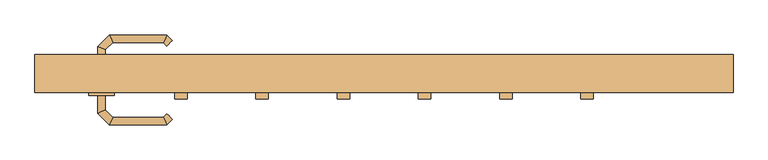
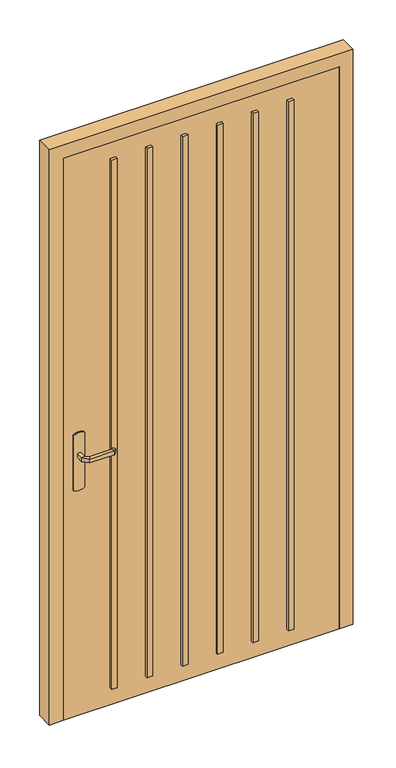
"""IFC4 building model written with IfcOpenShell, lengths in millimetres: door geometry, PVC Panneau Vitré - Traverse et barreaux : 1 m x 2.15m."""

import ifcopenshell
import ifcopenshell.guid

model = None  # the IFC model being written
_history = None  # IfcOwnerHistory: only IFC2X3 demands one
_inside = {}  # id of a spatial element -> (the spatial element, [elements in it])
_under = {}  # id of a project, library or spatial element -> (it, [spatial elements below it])
_declared = {}  # id of a project -> (the project, [libraries it declares])
_typed = {}  # id of a type object -> (the type object, [elements of that type])
_made_of = {}  # id of a material, layer set ... -> (it, [elements and type objects made of it])


def new_model(schema):
    """Start an empty IFC model of exactly this schema.

    Asked for "IFC4X3", IfcOpenShell would pick the latest addendum, in which some entities
    have other attributes; the version numbers below select the first issue.
    IFC2X3 requires an IfcOwnerHistory on every rooted entity: one is made here for all.
    """
    global model, _history
    if schema == "IFC4X3":
        model = ifcopenshell.file(schema_version=(4, 3, 0, 0))
    else:
        model = ifcopenshell.file(schema=schema)
    _inside.clear()
    _under.clear()
    _declared.clear()
    _typed.clear()
    _made_of.clear()
    _history = None
    if model.schema == "IFC2X3":
        org = make("IfcOrganization", Name="unknown")
        user = make(
            "IfcPersonAndOrganization",
            ThePerson=make("IfcPerson", FamilyName="unknown"),
            TheOrganization=org,
        )
        app = make(
            "IfcApplication",
            ApplicationDeveloper=org,
            Version="unknown",
            ApplicationFullName="unknown",
            ApplicationIdentifier="unknown",
        )
        _history = make(
            "IfcOwnerHistory",
            OwningUser=user,
            OwningApplication=app,
            ChangeAction="ADDED",
            CreationDate=0,
        )
    return model


def make(cls, **values):
    """One entity of the class cls with the attributes given. An attribute that is None is left unset."""
    return model.create_entity(
        cls, **{name: value for name, value in values.items() if value is not None}
    )


def rooted(cls, **values):
    """An entity with a GlobalId (a new one), such as an element, a storey or a relation."""
    return make(cls, GlobalId=ifcopenshell.guid.new(), OwnerHistory=_history, **values)


def si_unit(unit_type, name, prefix=None):
    """IfcSIUnit, for example si_unit("LENGTHUNIT", "METRE", prefix="MILLI")."""
    return make("IfcSIUnit", UnitType=unit_type, Prefix=prefix, Name=name)


def assignment(units):
    """IfcUnitAssignment: the units of a project."""
    return None if units is None else make("IfcUnitAssignment", Units=units)


def point(xyz):
    """IfcCartesianPoint."""
    return None if xyz is None else make("IfcCartesianPoint", Coordinates=xyz)


def direction(xyz):
    """IfcDirection."""
    return None if xyz is None else make("IfcDirection", DirectionRatios=xyz)


def frame(location, z_axis=None, x_axis=None):
    """IfcAxis2Placement3D, a coordinate frame: its origin and axes. An axis left out is left unset."""
    return make(
        "IfcAxis2Placement3D",
        Location=point(location),
        Axis=direction(z_axis),
        RefDirection=direction(x_axis),
    )


def frame_2d(location, x_axis=None):
    """IfcAxis2Placement2D, a coordinate frame in the plane: its origin and x axis."""
    return make(
        "IfcAxis2Placement2D", Location=point(location), RefDirection=direction(x_axis)
    )


def origin():
    """The frame at (0, 0, 0) with its axes left unset."""
    return frame((0.0, 0.0, 0.0))


def origin_with_axes():
    """The frame at (0, 0, 0) with the z axis (0, 0, 1) and the x axis (1, 0, 0) written out."""
    return frame((0.0, 0.0, 0.0), z_axis=(0.0, 0.0, 1.0), x_axis=(1.0, 0.0, 0.0))


def place(relative_to, where):
    """IfcLocalPlacement: puts the frame where relative to a parent placement (None: the world)."""
    return make(
        "IfcLocalPlacement", PlacementRelTo=relative_to, RelativePlacement=where
    )


def context(
    kind, dimensions, precision=None, world=None, true_north=None, identifier=None
):
    """IfcGeometricRepresentationContext, for example the 3D "Model" context."""
    return make(
        "IfcGeometricRepresentationContext",
        ContextIdentifier=identifier,
        ContextType=kind,
        CoordinateSpaceDimension=dimensions,
        Precision=precision,
        WorldCoordinateSystem=world,
        TrueNorth=true_north,
    )


def project(units=None, contexts=None):
    """IfcProject with its units and contexts."""
    return rooted(
        "IfcProject",
        Name="project",
        RepresentationContexts=contexts,
        UnitsInContext=assignment(units),
    )


def spatial(cls, under=None, at=None, **own):
    """A site, building, storey or space (cls), placed at a placement, below another one or the project."""
    s = rooted(cls, ObjectPlacement=at, **own)
    if under is not None:
        _under.setdefault(under.id(), (under, []))[1].append(s)
    return s


def polyline(points):
    """IfcPolyline through the points."""
    return make("IfcPolyline", Points=[point(p) for p in points])


def circle_curve(where, radius):
    """IfcCircle in the frame where."""
    return make("IfcCircle", Position=where, Radius=radius)


def ellipse_curve(where, semi_axis1, semi_axis2):
    """IfcEllipse in the frame where."""
    return make(
        "IfcEllipse", Position=where, SemiAxis1=semi_axis1, SemiAxis2=semi_axis2
    )


def trimmed(basis, trim1, trim2, sense, master):
    """IfcTrimmedCurve: the piece of a basis curve between two trims."""
    return make(
        "IfcTrimmedCurve",
        BasisCurve=basis,
        Trim1=trim1,
        Trim2=trim2,
        SenseAgreement=sense,
        MasterRepresentation=master,
    )


def segment(curve, same_sense, transition):
    """IfcCompositeCurveSegment."""
    return make(
        "IfcCompositeCurveSegment",
        Transition=transition,
        SameSense=same_sense,
        ParentCurve=curve,
    )


def composite_curve(segments, self_intersect=None):
    """IfcCompositeCurve: segments joined end to end."""
    return make("IfcCompositeCurve", Segments=segments, SelfIntersect=self_intersect)


def outline(outer, holes=None, kind="AREA"):
    """IfcArbitraryClosedProfileDef: a profile drawn as a closed curve; with holes, ...WithVoids."""
    if holes is None:
        return make("IfcArbitraryClosedProfileDef", ProfileType=kind, OuterCurve=outer)
    return make(
        "IfcArbitraryProfileDefWithVoids",
        ProfileType=kind,
        OuterCurve=outer,
        InnerCurves=holes,
    )


def extrude(swept, where, along, depth):
    """IfcExtrudedAreaSolid: the profile swept, set in the frame where, extruded along a direction by depth."""
    return make(
        "IfcExtrudedAreaSolid",
        SweptArea=swept,
        Position=where,
        ExtrudedDirection=direction(along),
        Depth=depth,
    )


def faces_of(points, faces, orient=None, outer=None):
    """IfcFace entities. A face is a list of loops; a loop is a list of indices into points, from 0.

    orient and outer hold one flag for each loop. By default every Orientation is true, the
    first loop of a face is its IfcFaceOuterBound and the others are IfcFaceBound.
    """
    made = []
    for i, loops in enumerate(faces):
        bounds = []
        for j, loop in enumerate(loops):
            is_outer = j == 0 if outer is None else outer[i][j]
            bounds.append(
                make(
                    "IfcFaceOuterBound" if is_outer else "IfcFaceBound",
                    Bound=make("IfcPolyLoop", Polygon=[points[k] for k in loop]),
                    Orientation=True if orient is None else orient[i][j],
                )
            )
        made.append(make("IfcFace", Bounds=bounds))
    return made


def faceted_brep(points, faces, orient=None, outer=None, voids=None):
    """IfcFacetedBrep: a solid bounded by flat faces; with voids (closed shells), ...WithVoids."""
    shared = [point(p) for p in points]
    hull = make("IfcClosedShell", CfsFaces=faces_of(shared, faces, orient, outer))
    if voids is None:
        return make("IfcFacetedBrep", Outer=hull)
    return make(
        "IfcFacetedBrepWithVoids",
        Outer=hull,
        Voids=[
            make(cls, CfsFaces=faces_of(shared, fs, o, b)) for cls, fs, o, b in voids
        ],
    )


def shape(context_of_items, identifier, shape_type, items):
    """IfcShapeRepresentation: the items that make up one representation, for example the "Body"."""
    return make(
        "IfcShapeRepresentation",
        ContextOfItems=context_of_items,
        RepresentationIdentifier=identifier,
        RepresentationType=shape_type,
        Items=items,
    )


def source(mapping_origin, context_of_items, identifier, shape_type, items):
    """IfcRepresentationMap: a shape defined once, which mapped items show again and again."""
    return make(
        "IfcRepresentationMap",
        MappingOrigin=mapping_origin,
        MappedRepresentation=shape(context_of_items, identifier, shape_type, items),
    )


def transform(
    local_origin,
    x_axis=None,
    y_axis=None,
    z_axis=None,
    scale=None,
    scale2=None,
    scale3=None,
    uniform=True,
):
    """IfcCartesianTransformationOperator3D, or its non-uniform kind. x_axis, y_axis, z_axis: its Axis1, 2, 3."""
    if uniform:
        return make(
            "IfcCartesianTransformationOperator3D",
            Axis1=direction(x_axis),
            Axis2=direction(y_axis),
            LocalOrigin=point(local_origin),
            Scale=scale,
            Axis3=direction(z_axis),
        )
    return make(
        "IfcCartesianTransformationOperator3DnonUniform",
        Axis1=direction(x_axis),
        Axis2=direction(y_axis),
        LocalOrigin=point(local_origin),
        Scale=scale,
        Axis3=direction(z_axis),
        Scale2=scale2,
        Scale3=scale3,
    )


def mapped(mapping_source, mapping_target):
    """IfcMappedItem: shows the shape of a source again, moved by a transform."""
    return make(
        "IfcMappedItem", MappingSource=mapping_source, MappingTarget=mapping_target
    )


def made_of(thing, what):
    """Note that an element or type object is made of a material, layer set ...; save() writes the relation."""
    if what is not None:
        _made_of.setdefault(what.id(), (what, []))[1].append(thing)
    return thing


def element(
    cls,
    number,
    at=None,
    inside=None,
    cuts=None,
    type_object=None,
    material=None,
    context=None,
    identifier="Body",
    shape_type=None,
    held_by="IfcProductDefinitionShape",
    body=None,
    shapes=None,
    **own,
):
    """One element of the class cls, such as IfcWall. Its Tag is "e" and its number.

    at: its placement. inside: the storey or other place that contains it. cuts: it is an
    opening in that element (IfcRelVoidsElement). A single representation is given by context,
    identifier, shape_type and body (its items); several are given by shapes. held_by: the class
    of the entity that holds the representations. save() writes the other relations.
    """
    e = rooted(cls, Tag="e%d" % number, ObjectPlacement=at, **own)
    if body is not None:
        shapes = [shape(context, identifier, shape_type, body)]
    if shapes is not None:
        e.Representation = make(held_by, Representations=shapes)
    if inside is not None:
        _inside.setdefault(inside.id(), (inside, []))[1].append(e)
    if cuts is not None:
        rooted(
            "IfcRelVoidsElement", RelatingBuildingElement=cuts, RelatedOpeningElement=e
        )
    if type_object is not None:
        _typed.setdefault(type_object.id(), (type_object, []))[1].append(e)
    return made_of(e, material)


def aggregate(whole, parts):
    """IfcRelAggregates: a whole, such as a stair, and the parts it consists of."""
    return rooted("IfcRelAggregates", RelatingObject=whole, RelatedObjects=parts)


def save(model, path):
    """Write the relations noted so far, then the file.

    IfcRelAggregates (storeys below a building ...), IfcRelContainedInSpatialStructure (elements
    in a storey), IfcRelDefinesByType, IfcRelAssociatesMaterial and IfcRelDeclares: one each for
    every whole, place, type object, material and project.
    """
    for whole, parts in _under.values():
        aggregate(whole, parts)
    for where, things in _inside.values():
        rooted(
            "IfcRelContainedInSpatialStructure",
            RelatedElements=things,
            RelatingStructure=where,
        )
    for kind, things in _typed.values():
        rooted("IfcRelDefinesByType", RelatedObjects=things, RelatingType=kind)
    for what, things in _made_of.values():
        rooted("IfcRelAssociatesMaterial", RelatedObjects=things, RelatingMaterial=what)
    for by, libraries in _declared.values():
        rooted("IfcRelDeclares", RelatingContext=by, RelatedDefinitions=libraries)
    model.write(path)


def plane_surface(at):
    """IfcPlane: the flat surface through the origin of the frame at, square to its z axis."""
    return make("IfcPlane", Position=at)


def cylinder_surface(at, radius):
    """IfcCylindricalSurface: all points at the distance radius from the z axis of the frame at."""
    return make("IfcCylindricalSurface", Position=at, Radius=radius)


def advanced_brep(points, edges, surfaces, faces):
    """IfcAdvancedBrep: a solid bounded by faces that lie on surfaces and meet in shared edges.

    An edge is (start, end): straight between two places in points (the first is 0);
    or (start, end, curve); or (start, end, curve, False) where it runs against its curve.
    A face is (place in surfaces, loops), or (place, loops, False) where it looks against
    its surface's normal. A loop lists edges by number (the first is 1), with a minus sign
    where the edge is run from its end to its start. The first loop is the outer one.
    """
    corners = [point(p) for p in points]
    vertices = [make("IfcVertexPoint", VertexGeometry=c) for c in corners]
    made = []
    for start, end, *more in edges:
        made.append(
            make(
                "IfcEdgeCurve",
                EdgeStart=vertices[start],
                EdgeEnd=vertices[end],
                EdgeGeometry=more[0] if more else make("IfcPolyline", Points=[corners[start], corners[end]]),
                SameSense=more[1] if len(more) > 1 else True,
            )
        )
    hull = []
    for where, loops, *sense in faces:
        bounds = []
        for j, loop in enumerate(loops):
            ring = [make("IfcOrientedEdge", EdgeElement=made[abs(k) - 1], Orientation=k > 0) for k in loop]
            bounds.append(
                make(
                    "IfcFaceOuterBound" if j == 0 else "IfcFaceBound",
                    Bound=make("IfcEdgeLoop", EdgeList=ring),
                    Orientation=True,
                )
            )
        hull.append(make("IfcAdvancedFace", Bounds=bounds, FaceSurface=surfaces[where], SameSense=sense[0] if sense else True))
    return make("IfcAdvancedBrep", Outer=make("IfcClosedShell", CfsFaces=hull))


def door_bd890e63(model_context):
    return source(origin(), model_context, "Body", "SolidModel", [
        extrude(outline(polyline([(-140.0, 2090.0), (-125.0, 2090.0), (-110.0, 2075.0), (-110.0, 80.0), (-125.0, 65.0), (-140.0, 65.0), (-140.0, 2090.0)])), frame((-202.0, 0.0, 0.0), z_axis=(1.0, 0.0, 0.0), x_axis=(0.0, 1.0, 0.0)), (0.0, 0.0, 1.0), 20.0),
        extrude(outline(polyline([(-140.0, 2090.0), (-125.0, 2090.0), (-110.0, 2075.0), (-110.0, 80.0), (-125.0, 65.0), (-140.0, 65.0), (-140.0, 2090.0)])), frame((-74.0, 0.0, 0.0), z_axis=(1.0, 0.0, 0.0), x_axis=(0.0, 1.0, 0.0)), (0.0, 0.0, 1.0), 20.0),
        advanced_brep(
        [(-439.0, -85.0, 993.0), (-439.0, -85.0, 1007.0), (-451.0, -85.0, 1007.0), (-451.0, -85.0, 993.0), (-439.0, -62.5147955, 993.0), (-439.0, -62.5147955, 1007.0), (-451.0, -57.5442327, 1007.0), (-451.0, -57.5442327, 993.0), (-427.5147186, -51.0295141, 993.0), (-427.5147186, -51.0295141, 1007.0), (-432.4852814, -39.0295141, 1007.0), (-432.4852814, -39.0295141, 993.0), (-347.4394977, -51.0295141, 993.0), (-347.4394977, -51.0295141, 1007.0), (-342.468935, -39.0295141, 1007.0), (-342.468935, -39.0295141, 993.0), (-342.1257892, -56.3432226, 993.0), (-333.6405078, -47.8579412, 993.0), (-333.6405078, -47.8579412, 1007.0), (-342.1257892, -56.3432226, 1007.0)],
        [
            (0, 1),
            (1, 2, circle_curve(frame((-445.0, -85.0, 986.9542278), z_axis=(0.0, -1.0, 0.0), x_axis=(-1.0, 0.0, 0.0)), 20.9244589)),
            (2, 3),
            (3, 0, circle_curve(frame((-445.0, -85.0, 1013.0457722), z_axis=(0.0, -1.0, 0.0), x_axis=(-1.0, 0.0, 0.0)), 20.9244589)),
            (0, 4),
            (4, 5),
            (5, 1),
            (5, 6, ellipse_curve(frame((-445.0, -60.0295141, 986.9542278), z_axis=(-0.38268343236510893, -0.9238795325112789, 0.0), x_axis=(0.9238795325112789, -0.3826834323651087, 0.0)), 22.6484711, 20.9244589)),
            (6, 2),
            (6, 7),
            (7, 3),
            (7, 4, ellipse_curve(frame((-445.0, -60.0295141, 1013.0457722), z_axis=(-0.38268343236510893, -0.9238795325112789, 0.0), x_axis=(0.9238795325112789, -0.3826834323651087, 0.0)), 22.6484711, 20.9244589)),
            (4, 8),
            (8, 9),
            (9, 5),
            (9, 10, ellipse_curve(frame((-430.0, -45.0295141, 986.9542278), z_axis=(-0.9238795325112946, -0.38268343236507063, 0.0), x_axis=(0.3826834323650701, -0.9238795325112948, 0.0)), 22.6484711, 20.9244589)),
            (10, 6),
            (10, 11),
            (11, 7),
            (11, 8, ellipse_curve(frame((-430.0, -45.0295141, 1013.0457722), z_axis=(-0.9238795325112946, -0.38268343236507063, 0.0), x_axis=(0.3826834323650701, -0.9238795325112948, 0.0)), 22.6484711, 20.9244589)),
            (8, 12),
            (12, 13),
            (13, 9),
            (13, 14, ellipse_curve(frame((-344.9542163, -45.0295141, 986.9542278), z_axis=(-0.9238795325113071, 0.38268343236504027, 0.0), x_axis=(-0.38268343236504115, -0.9238795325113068, 0.0)), 22.6484711, 20.9244589)),
            (14, 10),
            (14, 15),
            (15, 11),
            (15, 12, ellipse_curve(frame((-344.9542163, -45.0295141, 1013.0457722), z_axis=(-0.9238795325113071, 0.38268343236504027, 0.0), x_axis=(-0.38268343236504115, -0.9238795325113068, 0.0)), 22.6484711, 20.9244589)),
            (16, 17, circle_curve(frame((-337.8831485, -52.1005819, 1013.0457722), z_axis=(0.7071067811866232, -0.7071067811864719, 0.0), x_axis=(0.7071067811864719, 0.7071067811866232, 0.0)), 20.9244589)),
            (17, 18),
            (18, 19, circle_curve(frame((-337.8831485, -52.1005819, 986.9542278), z_axis=(0.7071067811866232, -0.7071067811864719, 0.0), x_axis=(0.7071067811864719, 0.7071067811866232, 0.0)), 20.9244589)),
            (19, 16),
            (12, 16),
            (19, 13),
            (18, 14),
            (17, 15),
        ],
        [
            plane_surface(frame((-454.2195445, -85.0, 1000.0), z_axis=(0.0, -1.0, 0.0), x_axis=(0.0, 0.0, 1.0))),
            plane_surface(frame((-439.0, -85.0, 993.0), z_axis=(1.0, 0.0, 0.0), x_axis=(0.0, 1.0, 0.0))),
            cylinder_surface(frame((-445.0, -85.0, 986.9542278), z_axis=(0.0, -1.0, 0.0), x_axis=(-1.0, 0.0, 0.0)), 20.9244589),
            plane_surface(frame((-451.0, -85.0, 1007.0), z_axis=(-1.0, 0.0, 0.0), x_axis=(0.0, 1.0, 0.0))),
            cylinder_surface(frame((-445.0, -85.0, 1013.0457722), z_axis=(0.0, -1.0, 0.0), x_axis=(-1.0, 0.0, 0.0)), 20.9244589),
            plane_surface(frame((-439.0, -62.5147955, 993.0), z_axis=(0.7071067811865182, -0.707106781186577, 0.0), x_axis=(0.707106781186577, 0.7071067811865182, 0.0))),
            cylinder_surface(frame((-445.0, -60.0295141, 986.9542278), z_axis=(-0.7071067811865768, -0.7071067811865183, 0.0), x_axis=(-0.7071067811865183, 0.7071067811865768, 0.0)), 20.9244589),
            plane_surface(frame((-451.0, -57.5442327, 1007.0), z_axis=(-0.7071067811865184, 0.7071067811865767, 0.0), x_axis=(0.7071067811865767, 0.7071067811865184, 0.0))),
            cylinder_surface(frame((-445.0, -60.0295141, 1013.0457722), z_axis=(-0.7071067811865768, -0.7071067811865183, 0.0), x_axis=(-0.7071067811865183, 0.7071067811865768, 0.0)), 20.9244589),
            plane_surface(frame((-427.5147186, -51.0295141, 993.0), z_axis=(0.0, -1.0, 0.0), x_axis=(1.0, 0.0, 0.0))),
            cylinder_surface(frame((-430.0, -45.0295141, 986.9542278), z_axis=(-1.0, 0.0, 0.0), x_axis=(0.0, 1.0, 0.0)), 20.9244589),
            plane_surface(frame((-432.4852814, -39.0295141, 1007.0), z_axis=(0.0, 1.0, 0.0), x_axis=(1.0, 0.0, 0.0))),
            cylinder_surface(frame((-430.0, -45.0295141, 1013.0457722), z_axis=(-1.0, 0.0, 0.0), x_axis=(0.0, 1.0, 0.0)), 20.9244589),
            plane_surface(frame((-337.8831485, -52.1005819, 990.7804555), z_axis=(0.7071067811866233, -0.7071067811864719, 0.0), x_axis=(0.7071067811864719, 0.7071067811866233, 0.0))),
            plane_surface(frame((-347.4394977, -51.0295141, 993.0), z_axis=(-0.7071067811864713, -0.7071067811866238, 0.0), x_axis=(0.7071067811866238, -0.7071067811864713, 0.0))),
            cylinder_surface(frame((-344.9542163, -45.0295141, 986.9542278), z_axis=(-0.7071067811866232, 0.7071067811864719, 0.0), x_axis=(0.7071067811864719, 0.7071067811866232, 0.0)), 20.9244589),
            plane_surface(frame((-342.468935, -39.0295141, 1007.0), z_axis=(0.7071067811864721, 0.707106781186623, 0.0), x_axis=(0.707106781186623, -0.7071067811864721, 0.0))),
            cylinder_surface(frame((-344.9542163, -45.0295141, 1013.0457722), z_axis=(-0.7071067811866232, 0.7071067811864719, 0.0), x_axis=(0.7071067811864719, 0.7071067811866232, 0.0)), 20.9244589),
        ],
        [
            (0, [[1, 2, 3, 4]]),
            (1, [[-1, 5, 6, 7]]),
            (2, [[-2, -7, 8, 9]]),
            (3, [[-3, -9, 10, 11]]),
            (4, [[-4, -11, 12, -5]]),
            (5, [[-6, 13, 14, 15]]),
            (6, [[-8, -15, 16, 17]]),
            (7, [[-10, -17, 18, 19]]),
            (8, [[-12, -19, 20, -13]]),
            (9, [[-14, 21, 22, 23]]),
            (10, [[-16, -23, 24, 25]]),
            (11, [[-18, -25, 26, 27]]),
            (12, [[-20, -27, 28, -21]]),
            (13, [[29, 30, 31, 32]]),
            (14, [[-22, 33, -32, 34]]),
            (15, [[-24, -34, -31, 35]]),
            (16, [[-26, -35, -30, 36]]),
            (17, [[-28, -36, -29, -33]]),
        ],
    ),
        advanced_brep(
        [(-451.0, -135.0, 1007.0), (-439.0, -135.0, 1007.0), (-439.0, -135.0, 993.0), (-451.0, -135.0, 993.0), (-451.0, -162.6509507, 1007.0), (-439.0, -157.680388, 1007.0), (-439.0, -157.680388, 993.0), (-451.0, -162.6509507, 993.0), (-432.62279, -181.0281607, 1007.0), (-427.6522273, -169.0281607, 1007.0), (-427.6522273, -169.0281607, 993.0), (-432.62279, -181.0281607, 993.0), (-342.496078, -181.0281607, 1007.0), (-347.4666408, -169.0281607, 1007.0), (-347.4666408, -169.0281607, 993.0), (-342.496078, -181.0281607, 993.0), (-333.6676509, -172.1997336, 1007.0), (-333.6676509, -172.1997336, 993.0), (-342.1529323, -163.7144522, 993.0), (-342.1529323, -163.7144522, 1007.0)],
        [
            (0, 1, circle_curve(frame((-445.0, -135.0, 986.9542278), z_axis=(0.0, 1.0, 0.0), x_axis=(1.0, 0.0, 0.0)), 20.9244589)),
            (1, 2),
            (2, 3, circle_curve(frame((-445.0, -135.0, 1013.0457722), z_axis=(0.0, 1.0, 0.0), x_axis=(1.0, 0.0, 0.0)), 20.9244589)),
            (3, 0),
            (0, 4),
            (4, 5, ellipse_curve(frame((-445.0, -160.1656693, 986.9542278), z_axis=(-0.3826834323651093, 0.9238795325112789, 0.0), x_axis=(0.9238795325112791, 0.38268343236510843, 0.0)), 22.6484711, 20.9244589)),
            (5, 1),
            (5, 6),
            (6, 2),
            (6, 7, ellipse_curve(frame((-445.0, -160.1656693, 1013.0457722), z_axis=(-0.3826834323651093, 0.9238795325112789, 0.0), x_axis=(0.9238795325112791, 0.38268343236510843, 0.0)), 22.6484711, 20.9244589)),
            (7, 3),
            (7, 4),
            (4, 8),
            (8, 9, ellipse_curve(frame((-430.1375086, -175.0281607, 986.9542278), z_axis=(-0.9238795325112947, 0.38268343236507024, 0.0), x_axis=(0.3826834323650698, 0.9238795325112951, 0.0)), 22.6484711, 20.9244589)),
            (9, 5),
            (9, 10),
            (10, 6),
            (10, 11, ellipse_curve(frame((-430.1375086, -175.0281607, 1013.0457722), z_axis=(-0.9238795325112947, 0.38268343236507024, 0.0), x_axis=(0.3826834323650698, 0.9238795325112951, 0.0)), 22.6484711, 20.9244589)),
            (11, 7),
            (11, 8),
            (8, 12),
            (12, 13, ellipse_curve(frame((-344.9813594, -175.0281607, 986.9542278), z_axis=(-0.9238795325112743, -0.3826834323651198, 0.0), x_axis=(-0.38268343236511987, 0.9238795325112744, 0.0)), 22.6484711, 20.9244589)),
            (13, 9),
            (13, 14),
            (14, 10),
            (14, 15, ellipse_curve(frame((-344.9813594, -175.0281607, 1013.0457722), z_axis=(-0.9238795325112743, -0.3826834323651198, 0.0), x_axis=(-0.38268343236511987, 0.9238795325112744, 0.0)), 22.6484711, 20.9244589)),
            (15, 11),
            (15, 12),
            (16, 17),
            (17, 18, circle_curve(frame((-337.9102916, -167.9570929, 1013.0457722), z_axis=(0.7071067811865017, 0.7071067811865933, 0.0), x_axis=(-0.7071067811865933, 0.7071067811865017, 0.0)), 20.9244589)),
            (18, 19),
            (19, 16, circle_curve(frame((-337.9102916, -167.9570929, 986.9542278), z_axis=(0.7071067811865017, 0.7071067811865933, 0.0), x_axis=(-0.7071067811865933, 0.7071067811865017, 0.0)), 20.9244589)),
            (12, 16),
            (19, 13),
            (18, 14),
            (17, 15),
        ],
        [
            plane_surface(frame((-454.2195445, -135.0, 1000.0), z_axis=(0.0, 1.0, 0.0), x_axis=(0.0, 0.0, -1.0))),
            cylinder_surface(frame((-445.0, -135.0, 986.9542278), z_axis=(0.0, 1.0, 0.0), x_axis=(1.0, 0.0, 0.0)), 20.9244589),
            plane_surface(frame((-439.0, -135.0, 1007.0), z_axis=(1.0, 0.0, 0.0), x_axis=(0.0, -1.0, 0.0))),
            cylinder_surface(frame((-445.0, -135.0, 1013.0457722), z_axis=(0.0, 1.0, 0.0), x_axis=(1.0, 0.0, 0.0)), 20.9244589),
            plane_surface(frame((-451.0, -135.0, 993.0), z_axis=(-1.0, 0.0, 0.0), x_axis=(0.0, -1.0, 0.0))),
            cylinder_surface(frame((-445.0, -160.1656693, 986.9542278), z_axis=(-0.7071067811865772, 0.7071067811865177, 0.0), x_axis=(0.7071067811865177, 0.7071067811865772, 0.0)), 20.9244589),
            plane_surface(frame((-439.0, -157.680388, 1007.0), z_axis=(0.707106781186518, 0.7071067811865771, 0.0), x_axis=(0.7071067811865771, -0.707106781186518, 0.0))),
            cylinder_surface(frame((-445.0, -160.1656693, 1013.0457722), z_axis=(-0.7071067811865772, 0.7071067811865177, 0.0), x_axis=(0.7071067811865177, 0.7071067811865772, 0.0)), 20.9244589),
            plane_surface(frame((-451.0, -162.6509507, 993.0), z_axis=(-0.7071067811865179, -0.7071067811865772, 0.0), x_axis=(0.7071067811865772, -0.7071067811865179, 0.0))),
            cylinder_surface(frame((-430.1375086, -175.0281607, 986.9542278), z_axis=(-1.0, 0.0, 0.0), x_axis=(0.0, 1.0, 0.0)), 20.9244589),
            plane_surface(frame((-427.6522273, -169.0281607, 1007.0), z_axis=(0.0, 1.0, 0.0), x_axis=(1.0, 0.0, 0.0))),
            cylinder_surface(frame((-430.1375086, -175.0281607, 1013.0457722), z_axis=(-1.0, 0.0, 0.0), x_axis=(0.0, 1.0, 0.0)), 20.9244589),
            plane_surface(frame((-432.62279, -181.0281607, 993.0), z_axis=(0.0, -1.0, 0.0), x_axis=(1.0, 0.0, 0.0))),
            plane_surface(frame((-337.9102916, -167.9570929, 1009.2195445), z_axis=(0.7071067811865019, 0.7071067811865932, 0.0), x_axis=(0.7071067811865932, -0.7071067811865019, 0.0))),
            cylinder_surface(frame((-344.9813594, -175.0281607, 986.9542278), z_axis=(-0.7071067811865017, -0.7071067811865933, 0.0), x_axis=(-0.7071067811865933, 0.7071067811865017, 0.0)), 20.9244589),
            plane_surface(frame((-347.4666408, -169.0281607, 1007.0), z_axis=(-0.7071067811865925, 0.7071067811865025, 0.0), x_axis=(0.7071067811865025, 0.7071067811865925, 0.0))),
            cylinder_surface(frame((-344.9813594, -175.0281607, 1013.0457722), z_axis=(-0.7071067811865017, -0.7071067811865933, 0.0), x_axis=(-0.7071067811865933, 0.7071067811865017, 0.0)), 20.9244589),
            plane_surface(frame((-342.496078, -181.0281607, 993.0), z_axis=(0.7071067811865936, -0.7071067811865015, 0.0), x_axis=(0.7071067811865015, 0.7071067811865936, 0.0))),
        ],
        [
            (0, [[1, 2, 3, 4]]),
            (1, [[-1, 5, 6, 7]]),
            (2, [[-2, -7, 8, 9]]),
            (3, [[-3, -9, 10, 11]]),
            (4, [[-4, -11, 12, -5]]),
            (5, [[-6, 13, 14, 15]]),
            (6, [[-8, -15, 16, 17]]),
            (7, [[-10, -17, 18, 19]]),
            (8, [[-12, -19, 20, -13]]),
            (9, [[-14, 21, 22, 23]]),
            (10, [[-16, -23, 24, 25]]),
            (11, [[-18, -25, 26, 27]]),
            (12, [[-20, -27, 28, -21]]),
            (13, [[29, 30, 31, 32]]),
            (14, [[-22, 33, -32, 34]]),
            (15, [[-24, -34, -31, 35]]),
            (16, [[-26, -35, -30, 36]]),
            (17, [[-28, -36, -29, -33]]),
        ],
    ),
        extrude(outline(composite_curve([segment(trimmed(circle_curve(frame_2d((1045.3589838, -445.0)), 40.0), [point((1080.0, -425.0))], [point((1080.0, -465.0))], False, "CARTESIAN"), True, "CONTINUOUS"), segment(polyline([(1080.0, -465.0), (870.0, -465.0)]), True, "CONTINUOUS"), segment(trimmed(circle_curve(frame_2d((904.6410162, -445.0)), 40.0), [point((870.0, -465.0))], [point((870.0, -425.0))], False, "CARTESIAN"), True, "CONTINUOUS"), segment(polyline([(870.0, -425.0), (1080.0, -425.0)]), True, "CONTINUOUS")], self_intersect=False)), frame((0.0, -90.0, 0.0), z_axis=(0.0, 1.0, 0.0), x_axis=(0.0, 0.0, 1.0)), (0.0, 0.0, 1.0), 5.0),
        extrude(outline(composite_curve([segment(trimmed(circle_curve(frame_2d((904.6410162, -445.0)), 40.0), [point((870.0, -465.0))], [point((870.0, -425.0))], False, "CARTESIAN"), True, "CONTINUOUS"), segment(polyline([(870.0, -425.0), (1080.0, -425.0)]), True, "CONTINUOUS"), segment(trimmed(circle_curve(frame_2d((1045.3589838, -445.0)), 40.0), [point((1080.0, -425.0))], [point((1080.0, -465.0))], False, "CARTESIAN"), True, "CONTINUOUS"), segment(polyline([(1080.0, -465.0), (870.0, -465.0)]), True, "CONTINUOUS")], self_intersect=False)), frame((0.0, -135.0, 0.0), z_axis=(0.0, 1.0, 0.0), x_axis=(0.0, 0.0, 1.0)), (0.0, 0.0, 1.0), 5.0),
        extrude(outline(polyline([(-140.0, 2090.0), (-125.0, 2090.0), (-110.0, 2075.0), (-110.0, 80.0), (-125.0, 65.0), (-140.0, 65.0), (-140.0, 2090.0)])), frame((54.0, 0.0, 0.0), z_axis=(1.0, 0.0, 0.0), x_axis=(0.0, 1.0, 0.0)), (0.0, 0.0, 1.0), 20.0),
        extrude(outline(polyline([(-140.0, 2090.0), (-125.0, 2090.0), (-110.0, 2075.0), (-110.0, 80.0), (-125.0, 65.0), (-140.0, 65.0), (-140.0, 2090.0)])), frame((182.0, 0.0, 0.0), z_axis=(1.0, 0.0, 0.0), x_axis=(0.0, 1.0, 0.0)), (0.0, 0.0, 1.0), 20.0),
        extrude(outline(polyline([(-140.0, 2090.0), (-125.0, 2090.0), (-110.0, 2075.0), (-110.0, 80.0), (-125.0, 65.0), (-140.0, 65.0), (-140.0, 2090.0)])), frame((-330.0, 0.0, 0.0), z_axis=(1.0, 0.0, 0.0), x_axis=(0.0, 1.0, 0.0)), (0.0, 0.0, 1.0), 20.0),
        extrude(outline(polyline([(-140.0, 2090.0), (-125.0, 2090.0), (-110.0, 2075.0), (-110.0, 80.0), (-125.0, 65.0), (-140.0, 65.0), (-140.0, 2090.0)])), frame((310.0, 0.0, 0.0), z_axis=(1.0, 0.0, 0.0), x_axis=(0.0, 1.0, 0.0)), (0.0, 0.0, 1.0), 20.0),
        faceted_brep([(-550.0, -130.0, 0.0), (-550.0, -70.0, 0.0), (-485.0, -70.0, 0.0), (-485.0, -90.0, 0.0), (-500.0, -90.0, 0.0), (-500.0, -130.0, 0.0), (-550.0, -130.0, 2200.0), (-550.0, -70.0, 2200.0), (550.0, -70.0, 2200.0), (550.0, -70.0, 0.0), (485.0, -70.0, 0.0), (485.0, -70.0, 2135.0), (-485.0, -70.0, 2135.0), (-485.0, -90.0, 2135.0), (485.0, -90.0, 2135.0), (485.0, -90.0, 0.0), (500.0, -90.0, 0.0), (500.0, -90.0, 2150.0), (-500.0, -90.0, 2150.0), (-500.0, -130.0, 2150.0), (500.0, -130.0, 2150.0), (500.0, -130.0, 0.0), (550.0, -130.0, 0.0), (550.0, -130.0, 2200.0)], [[[0, 1, 2, 3, 4, 5]], [[1, 0, 6, 7]], [[2, 1, 7, 8, 9, 10, 11, 12]], [[3, 2, 12, 13]], [[4, 3, 13, 14, 15, 16, 17, 18]], [[5, 4, 18, 19]], [[0, 5, 19, 20, 21, 22, 23, 6]], [[7, 6, 23, 8]], [[13, 12, 11, 14]], [[19, 18, 17, 20]], [[22, 21, 16, 15, 10, 9]], [[8, 23, 22, 9]], [[14, 11, 10, 15]], [[20, 17, 16, 21]]]),
        extrude(outline(polyline([(315.0, -115.0), (-315.0, -115.0), (-315.0, -105.0), (315.0, -105.0), (315.0, -115.0)])), frame((0.0, 0.0, 1000.0), z_axis=(0.0, 0.0, 1.0), x_axis=(1.0, 0.0, 0.0)), (0.0, 0.0, 1.0), 1010.0),
        extrude(outline(polyline([(315.0, -115.0), (-315.0, -115.0), (-315.0, -105.0), (315.0, -105.0), (315.0, -115.0)])), frame((0.0, 0.0, 100.0), z_axis=(0.0, 0.0, 1.0), x_axis=(1.0, 0.0, 0.0)), (0.0, 0.0, 1.0), 800.0),
        extrude(outline(polyline([(500.0, -130.0), (-500.0, -130.0), (-500.0, -90.0), (500.0, -90.0), (500.0, -130.0)])), origin_with_axes(), (0.0, 0.0, 1.0), 2150.0),
    ])


if __name__ == "__main__":
    model = new_model("IFC4")
    model_context = context("Model", 3, world=origin())
    ifc_project = project(units=[si_unit("LENGTHUNIT", "METRE", prefix="MILLI")], contexts=[model_context])
    site = spatial("IfcSite", under=ifc_project)
    building = spatial("IfcBuilding", under=site)
    placement = place(None, origin())
    door_shape = door_bd890e63(model_context)
    element("IfcDoor", 1, ObjectType="PVC Panneau Vitré - Traverse et barreaux : 1 m x 2.15m", at=placement, inside=building, context=model_context, shape_type="MappedRepresentation", body=[
        mapped(door_shape, transform((0.0, 0.0, 0.0), x_axis=(1.0, 0.0, 0.0), y_axis=(0.0, 1.0, 0.0), z_axis=(0.0, 0.0, 1.0))),
    ])
    save(model, "model.ifc")
